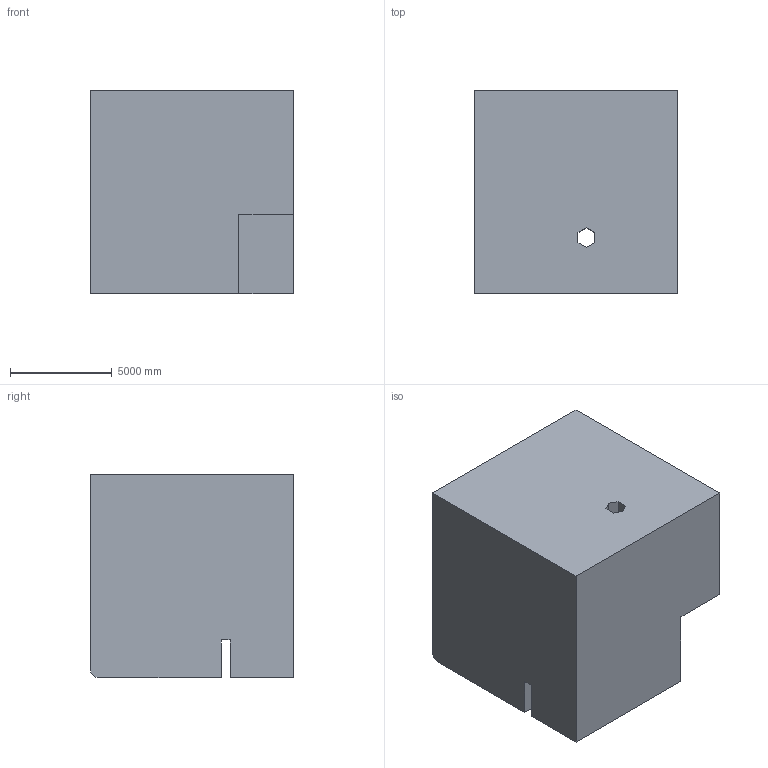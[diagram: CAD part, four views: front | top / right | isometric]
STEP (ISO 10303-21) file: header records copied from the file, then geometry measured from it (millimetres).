
FILE_DESCRIPTION (( 'STEP AP203' ), '1' );
FILE_NAME ('33.STEP', '2022-09-01T11:41:12', ( 'user' ), ( '' ), 'SwSTEP 2.0', 'SolidWorks 2021', '' );
FILE_SCHEMA (( 'CONFIG_CONTROL_DESIGN' ));
Length unit declared in the file: centimetre
Products named in the file (1): 33
Bounding box: 10000 x 10000 x 10000 mm (x, y, z)
Volume: 905807434347.3 mm3; surface area: 650186122.8 mm2
Topology: 1 solids, 1 shells, 21 faces, 60 edges, 40 vertices
Faces by surface type: plane 20, cylinder 1
Entity records: 757 total; most frequent: CARTESIAN_POINT 122, ORIENTED_EDGE 120, DIRECTION 106, EDGE_CURVE 60, VECTOR 58, LINE 58, VERTEX_POINT 40, AXIS2_PLACEMENT_3D 24
